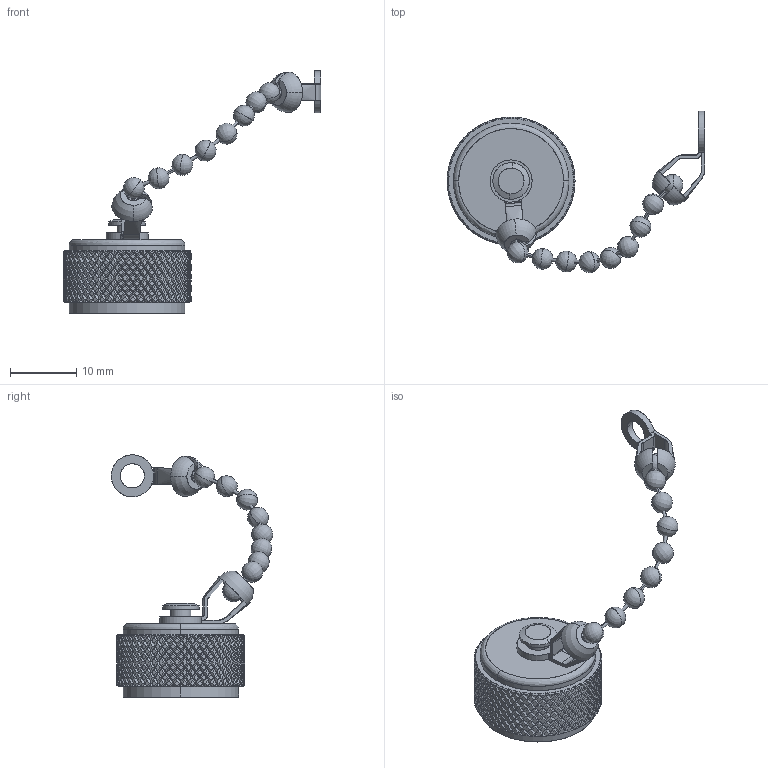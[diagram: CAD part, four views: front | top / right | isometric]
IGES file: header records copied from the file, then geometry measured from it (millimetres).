
Start section: SolidWorks IGES file using analytic representation for surfaces
Global section: file name: C:\Users\sculpepper\Desktop\mouser\1132000A00E-000\1132000A00E-000igs.IGS; native system: SolidWorks 2019; preprocessor: SolidWorks 2019; author: sculpepper; date: 210517.111627; units: inch
Bounding box: 38.91 x 24.37 x 36.59 mm (x, y, z)
Surface area: 3369.3 mm2 (no closed solid volume)
Topology: 0 solids, 0 shells, 3187 faces, 15426 edges, 15384 vertices
Faces by surface type: bspline 2315, revolution 872
